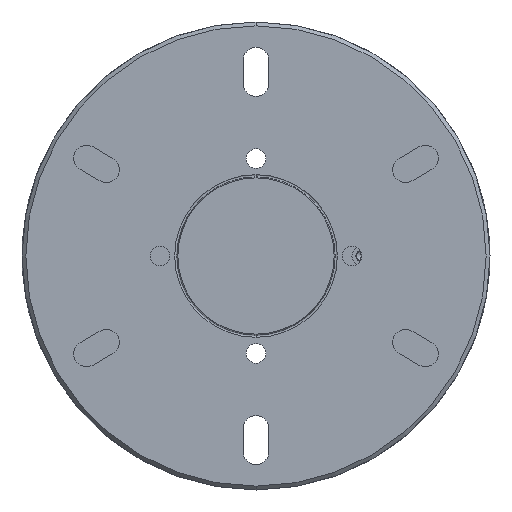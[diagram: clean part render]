
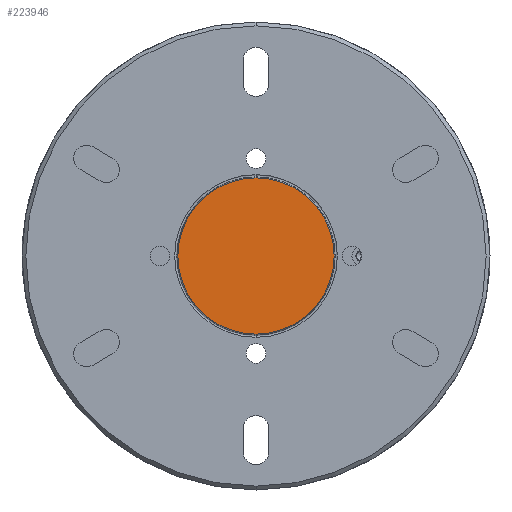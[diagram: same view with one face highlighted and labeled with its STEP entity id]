
A CAD part, front view. The second image highlights one B-rep face of the part: STEP entity #223946.
In plain terms, the highlighted planar face has unit normal (0, -1, 0).
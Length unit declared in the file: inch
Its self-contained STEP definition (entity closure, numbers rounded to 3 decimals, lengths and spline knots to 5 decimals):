
#26293 = CARTESIAN_POINT ( 'NONE',  ( 0., -0.3937, 0. ) ) ;
#43755 = VERTEX_POINT ( 'NONE', #220400 ) ;
#47871 = DIRECTION ( 'NONE',  ( 0., 0., -1. ) ) ;
#60868 = AXIS2_PLACEMENT_3D ( 'NONE', #283925, #132147, #130760 ) ;
#65323 = AXIS2_PLACEMENT_3D ( 'NONE', #114474, #201200, #47871 ) ;
#83895 = CIRCLE ( 'NONE', #65323, 1.60341 ) ;
#94337 = DIRECTION ( 'NONE',  ( 0., 0., -1. ) ) ;
#110168 = ORIENTED_EDGE ( 'NONE', *, *, #173105, .T. ) ;
#110544 = PLANE ( 'NONE',  #60868 ) ;
#114474 = CARTESIAN_POINT ( 'NONE',  ( 0., -0.3937, 0. ) ) ;
#130760 = DIRECTION ( 'NONE',  ( 0., 0., -1. ) ) ;
#132147 = DIRECTION ( 'NONE',  ( 0., -1., 0. ) ) ;
#134883 = DIRECTION ( 'NONE',  ( 0., -1., 0. ) ) ;
#141331 = AXIS2_PLACEMENT_3D ( 'NONE', #26293, #134883, #94337 ) ;
#150717 = CIRCLE ( 'NONE', #141331, 1.60341 ) ;
#152508 = FACE_OUTER_BOUND ( 'NONE', #261764, .T. ) ;
#153426 = CARTESIAN_POINT ( 'NONE',  ( 0., -0.3937, -1.60341 ) ) ;
#173105 = EDGE_CURVE ( 'NONE', #258875, #43755, #150717, .T. ) ;
#185709 = ORIENTED_EDGE ( 'NONE', *, *, #185806, .T. ) ;
#185806 = EDGE_CURVE ( 'NONE', #43755, #258875, #83895, .T. ) ;
#201200 = DIRECTION ( 'NONE',  ( 0., -1., 0. ) ) ;
#220400 = CARTESIAN_POINT ( 'NONE',  ( 0., -0.3937, 1.60341 ) ) ;
#223946 = ADVANCED_FACE ( 'NONE', ( #152508 ), #110544, .T. ) ;
#258875 = VERTEX_POINT ( 'NONE', #153426 ) ;
#261764 = EDGE_LOOP ( 'NONE', ( #185709, #110168 ) ) ;
#283925 = CARTESIAN_POINT ( 'NONE',  ( 0., -0.3937, 0. ) ) ;
